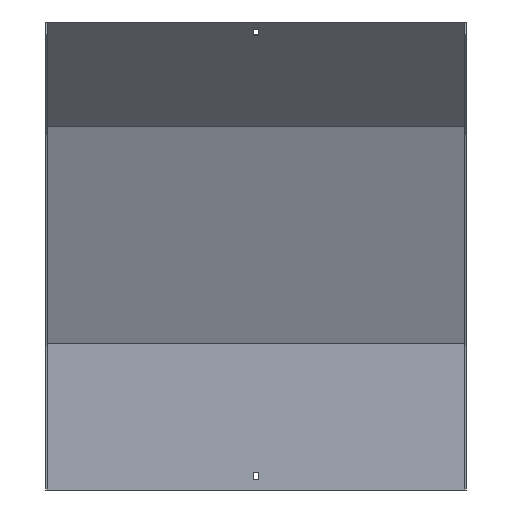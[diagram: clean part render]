
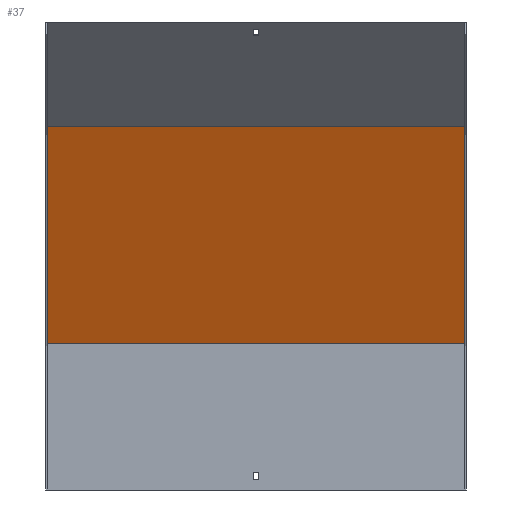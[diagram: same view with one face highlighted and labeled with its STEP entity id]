
A CAD part, front view. The second image highlights one B-rep face of the part: STEP entity #37.
In plain terms, the highlighted planar face has unit normal (0, -0.924, -0.383).
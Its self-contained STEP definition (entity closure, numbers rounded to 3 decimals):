
#19 = AXIS2_PLACEMENT_3D ( 'NONE', #693, #389, #632 ) ;
#37 = ADVANCED_FACE ( 'NONE', ( #369 ), #253, .T. ) ;
#45 = LINE ( 'NONE', #688, #705 ) ;
#60 = DIRECTION ( 'NONE',  ( -1., 0., 0. ) ) ;
#180 = CARTESIAN_POINT ( 'NONE',  ( 251.5, 18.5, 175.68 ) ) ;
#206 = EDGE_CURVE ( 'NONE', #449, #737, #401, .T. ) ;
#253 = PLANE ( 'NONE',  #19 ) ;
#260 = DIRECTION ( 'NONE',  ( 0., -0.383, 0.924 ) ) ;
#289 = ORIENTED_EDGE ( 'NONE', *, *, #206, .T. ) ;
#343 = ORIENTED_EDGE ( 'NONE', *, *, #372, .F. ) ;
#369 = FACE_OUTER_BOUND ( 'NONE', #734, .T. ) ;
#372 = EDGE_CURVE ( 'NONE', #636, #721, #818, .T. ) ;
#385 = ORIENTED_EDGE ( 'NONE', *, *, #640, .F. ) ;
#389 = DIRECTION ( 'NONE',  ( 0., -0.924, -0.383 ) ) ;
#401 = LINE ( 'NONE', #512, #692 ) ;
#404 = CARTESIAN_POINT ( 'NONE',  ( -250., -88.789, 434.699 ) ) ;
#449 = VERTEX_POINT ( 'NONE', #486 ) ;
#461 = CARTESIAN_POINT ( 'NONE',  ( 250., -88.789, 434.699 ) ) ;
#474 = CARTESIAN_POINT ( 'NONE',  ( -250., 77.903, 32.268 ) ) ;
#478 = VECTOR ( 'NONE', #60, 1000. ) ;
#481 = DIRECTION ( 'NONE',  ( 0., -0.383, 0.924 ) ) ;
#486 = CARTESIAN_POINT ( 'NONE',  ( 250., 18.5, 175.68 ) ) ;
#497 = EDGE_CURVE ( 'NONE', #737, #721, #45, .T. ) ;
#512 = CARTESIAN_POINT ( 'NONE',  ( 250., 77.903, 32.268 ) ) ;
#587 = VECTOR ( 'NONE', #481, 1000. ) ;
#610 = ORIENTED_EDGE ( 'NONE', *, *, #497, .T. ) ;
#632 = DIRECTION ( 'NONE',  ( 0., 0.383, -0.924 ) ) ;
#636 = VERTEX_POINT ( 'NONE', #841 ) ;
#640 = EDGE_CURVE ( 'NONE', #449, #636, #774, .T. ) ;
#688 = CARTESIAN_POINT ( 'NONE',  ( 251.5, -88.789, 434.699 ) ) ;
#692 = VECTOR ( 'NONE', #260, 1000. ) ;
#693 = CARTESIAN_POINT ( 'NONE',  ( 251.5, 17.092, 179.08 ) ) ;
#705 = VECTOR ( 'NONE', #835, 1000. ) ;
#721 = VERTEX_POINT ( 'NONE', #404 ) ;
#734 = EDGE_LOOP ( 'NONE', ( #343, #385, #289, #610 ) ) ;
#737 = VERTEX_POINT ( 'NONE', #461 ) ;
#774 = LINE ( 'NONE', #180, #478 ) ;
#818 = LINE ( 'NONE', #474, #587 ) ;
#835 = DIRECTION ( 'NONE',  ( -1., 0., 0. ) ) ;
#841 = CARTESIAN_POINT ( 'NONE',  ( -250., 18.5, 175.68 ) ) ;
